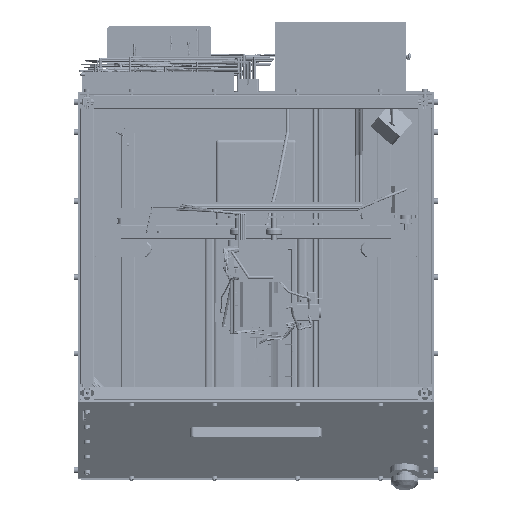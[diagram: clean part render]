
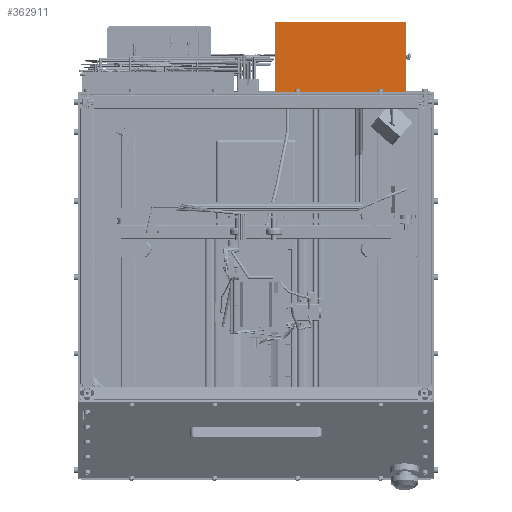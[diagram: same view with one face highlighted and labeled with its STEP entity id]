
A CAD part, top view. The second image highlights one B-rep face of the part: STEP entity #362911.
In plain terms, the highlighted planar face has unit normal (0, 0, 1).
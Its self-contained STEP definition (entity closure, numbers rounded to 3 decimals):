
#362722 = VERTEX_POINT('',#362723);
#362723 = CARTESIAN_POINT('',(28.,258.,266.));
#362730 = PLANE('',#362731);
#362731 = AXIS2_PLACEMENT_3D('',#362732,#362733,#362734);
#362732 = CARTESIAN_POINT('',(28.,258.,263.));
#362733 = DIRECTION('',(1.,0.,0.));
#362734 = DIRECTION('',(0.,0.,1.));
#362742 = PLANE('',#362743);
#362743 = AXIS2_PLACEMENT_3D('',#362744,#362745,#362746);
#362744 = CARTESIAN_POINT('',(28.,258.,263.));
#362745 = DIRECTION('',(0.,1.,0.));
#362746 = DIRECTION('',(0.,0.,1.));
#362783 = VERTEX_POINT('',#362784);
#362784 = CARTESIAN_POINT('',(28.,360.,266.));
#362798 = PLANE('',#362799);
#362799 = AXIS2_PLACEMENT_3D('',#362800,#362801,#362802);
#362800 = CARTESIAN_POINT('',(28.,360.,263.));
#362801 = DIRECTION('',(0.,1.,0.));
#362802 = DIRECTION('',(0.,0.,1.));
#362810 = EDGE_CURVE('',#362722,#362783,#362811,.T.);
#362811 = SURFACE_CURVE('',#362812,(#362816,#362823),.PCURVE_S1.);
#362812 = LINE('',#362813,#362814);
#362813 = CARTESIAN_POINT('',(28.,258.,266.));
#362814 = VECTOR('',#362815,1.);
#362815 = DIRECTION('',(0.,1.,0.));
#362816 = PCURVE('',#362730,#362817);
#362817 = DEFINITIONAL_REPRESENTATION('',(#362818),#362822);
#362818 = LINE('',#362819,#362820);
#362819 = CARTESIAN_POINT('',(3.,0.));
#362820 = VECTOR('',#362821,1.);
#362821 = DIRECTION('',(0.,-1.));
#362822 = ( GEOMETRIC_REPRESENTATION_CONTEXT(2) 
PARAMETRIC_REPRESENTATION_CONTEXT() REPRESENTATION_CONTEXT('2D SPACE',''
  ) );
#362823 = PCURVE('',#362824,#362829);
#362824 = PLANE('',#362825);
#362825 = AXIS2_PLACEMENT_3D('',#362826,#362827,#362828);
#362826 = CARTESIAN_POINT('',(28.,258.,266.));
#362827 = DIRECTION('',(0.,0.,1.));
#362828 = DIRECTION('',(1.,0.,0.));
#362829 = DEFINITIONAL_REPRESENTATION('',(#362830),#362834);
#362830 = LINE('',#362831,#362832);
#362831 = CARTESIAN_POINT('',(0.,0.));
#362832 = VECTOR('',#362833,1.);
#362833 = DIRECTION('',(0.,1.));
#362834 = ( GEOMETRIC_REPRESENTATION_CONTEXT(2) 
PARAMETRIC_REPRESENTATION_CONTEXT() REPRESENTATION_CONTEXT('2D SPACE',''
  ) );
#362863 = EDGE_CURVE('',#362722,#362864,#362866,.T.);
#362864 = VERTEX_POINT('',#362865);
#362865 = CARTESIAN_POINT('',(217.,258.,266.));
#362866 = SURFACE_CURVE('',#362867,(#362871,#362878),.PCURVE_S1.);
#362867 = LINE('',#362868,#362869);
#362868 = CARTESIAN_POINT('',(28.,258.,266.));
#362869 = VECTOR('',#362870,1.);
#362870 = DIRECTION('',(1.,0.,0.));
#362871 = PCURVE('',#362742,#362872);
#362872 = DEFINITIONAL_REPRESENTATION('',(#362873),#362877);
#362873 = LINE('',#362874,#362875);
#362874 = CARTESIAN_POINT('',(3.,0.));
#362875 = VECTOR('',#362876,1.);
#362876 = DIRECTION('',(0.,1.));
#362877 = ( GEOMETRIC_REPRESENTATION_CONTEXT(2) 
PARAMETRIC_REPRESENTATION_CONTEXT() REPRESENTATION_CONTEXT('2D SPACE',''
  ) );
#362878 = PCURVE('',#362824,#362879);
#362879 = DEFINITIONAL_REPRESENTATION('',(#362880),#362884);
#362880 = LINE('',#362881,#362882);
#362881 = CARTESIAN_POINT('',(0.,0.));
#362882 = VECTOR('',#362883,1.);
#362883 = DIRECTION('',(1.,0.));
#362884 = ( GEOMETRIC_REPRESENTATION_CONTEXT(2) 
PARAMETRIC_REPRESENTATION_CONTEXT() REPRESENTATION_CONTEXT('2D SPACE',''
  ) );
#362900 = PLANE('',#362901);
#362901 = AXIS2_PLACEMENT_3D('',#362902,#362903,#362904);
#362902 = CARTESIAN_POINT('',(217.,258.,263.));
#362903 = DIRECTION('',(1.,0.,0.));
#362904 = DIRECTION('',(0.,0.,1.));
#362911 = ADVANCED_FACE('',(#362912),#362824,.T.);
#362912 = FACE_BOUND('',#362913,.T.);
#362913 = EDGE_LOOP('',(#362914,#362915,#362916,#362939));
#362914 = ORIENTED_EDGE('',*,*,#362810,.F.);
#362915 = ORIENTED_EDGE('',*,*,#362863,.T.);
#362916 = ORIENTED_EDGE('',*,*,#362917,.T.);
#362917 = EDGE_CURVE('',#362864,#362918,#362920,.T.);
#362918 = VERTEX_POINT('',#362919);
#362919 = CARTESIAN_POINT('',(217.,360.,266.));
#362920 = SURFACE_CURVE('',#362921,(#362925,#362932),.PCURVE_S1.);
#362921 = LINE('',#362922,#362923);
#362922 = CARTESIAN_POINT('',(217.,258.,266.));
#362923 = VECTOR('',#362924,1.);
#362924 = DIRECTION('',(0.,1.,0.));
#362925 = PCURVE('',#362824,#362926);
#362926 = DEFINITIONAL_REPRESENTATION('',(#362927),#362931);
#362927 = LINE('',#362928,#362929);
#362928 = CARTESIAN_POINT('',(189.,0.));
#362929 = VECTOR('',#362930,1.);
#362930 = DIRECTION('',(0.,1.));
#362931 = ( GEOMETRIC_REPRESENTATION_CONTEXT(2) 
PARAMETRIC_REPRESENTATION_CONTEXT() REPRESENTATION_CONTEXT('2D SPACE',''
  ) );
#362932 = PCURVE('',#362900,#362933);
#362933 = DEFINITIONAL_REPRESENTATION('',(#362934),#362938);
#362934 = LINE('',#362935,#362936);
#362935 = CARTESIAN_POINT('',(3.,0.));
#362936 = VECTOR('',#362937,1.);
#362937 = DIRECTION('',(0.,-1.));
#362938 = ( GEOMETRIC_REPRESENTATION_CONTEXT(2) 
PARAMETRIC_REPRESENTATION_CONTEXT() REPRESENTATION_CONTEXT('2D SPACE',''
  ) );
#362939 = ORIENTED_EDGE('',*,*,#362940,.F.);
#362940 = EDGE_CURVE('',#362783,#362918,#362941,.T.);
#362941 = SURFACE_CURVE('',#362942,(#362946,#362953),.PCURVE_S1.);
#362942 = LINE('',#362943,#362944);
#362943 = CARTESIAN_POINT('',(28.,360.,266.));
#362944 = VECTOR('',#362945,1.);
#362945 = DIRECTION('',(1.,0.,0.));
#362946 = PCURVE('',#362824,#362947);
#362947 = DEFINITIONAL_REPRESENTATION('',(#362948),#362952);
#362948 = LINE('',#362949,#362950);
#362949 = CARTESIAN_POINT('',(0.,102.));
#362950 = VECTOR('',#362951,1.);
#362951 = DIRECTION('',(1.,0.));
#362952 = ( GEOMETRIC_REPRESENTATION_CONTEXT(2) 
PARAMETRIC_REPRESENTATION_CONTEXT() REPRESENTATION_CONTEXT('2D SPACE',''
  ) );
#362953 = PCURVE('',#362798,#362954);
#362954 = DEFINITIONAL_REPRESENTATION('',(#362955),#362959);
#362955 = LINE('',#362956,#362957);
#362956 = CARTESIAN_POINT('',(3.,0.));
#362957 = VECTOR('',#362958,1.);
#362958 = DIRECTION('',(0.,1.));
#362959 = ( GEOMETRIC_REPRESENTATION_CONTEXT(2) 
PARAMETRIC_REPRESENTATION_CONTEXT() REPRESENTATION_CONTEXT('2D SPACE',''
  ) );
